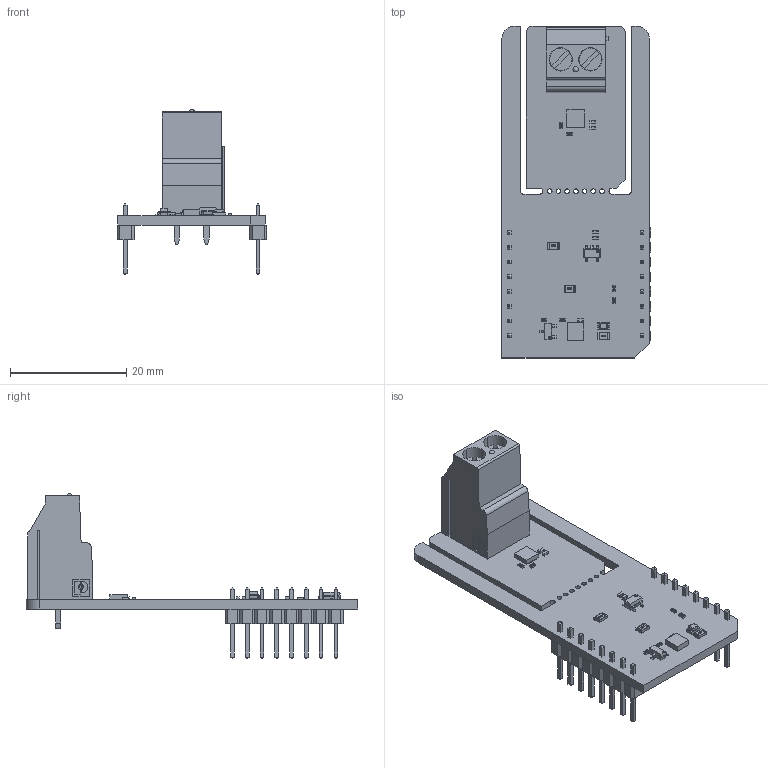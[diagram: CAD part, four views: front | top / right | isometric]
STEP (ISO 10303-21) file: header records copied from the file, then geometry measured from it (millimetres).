
FILE_DESCRIPTION(('Open CASCADE Model'),'2;1');
FILE_NAME('Open CASCADE Shape Model','2025-12-10T14:42:31',('Author'),( 'Open CASCADE'),'Open CASCADE STEP processor 6.8','Open CASCADE 6.8' ,'Unknown');
FILE_SCHEMA(('AUTOMOTIVE_DESIGN { 1 0 10303 214 1 1 1 1 }'));
Length unit declared in the file: millimetre
Products named in the file (42): PCB; Board; R1; User_Library-R_0805; LD1; led_0805_green; R2; User_Library-R_0402; C1; User_Library-SMD_CAPACITOR0402; R4; Q1; SOT23-3; U1; 995393072; Extruded; U4; MCS1826GQTE-05-P; Body; Pins; U3; User_Library-SOT23-5-2; TB1; 1711725; mkds_3-2-5.08; R8; R7; R6; R5; JP2; C5; C4; C3; C2; MBD1; Header_1x8; Free-Models; 1240637040; User_Library-PinHeaderX5-1_PinHeaderX5_Body_1; User_Library-PinHeaderX5-1_PinHeaderX5_Pins_1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
Assembly tree (54 placements, depth 7):
  PCB
    Board
    R1
      User_Library-R_0805
    LD1
      led_0805_green
    R2
      User_Library-R_0402
    C1
      User_Library-SMD_CAPACITOR0402
    R4
      User_Library-R_0402
    Q1
      SOT23-3
    U1
      995393072
        Extruded
    U4
      MCS1826GQTE-05-P
        Body
        Pins
    U3
      User_Library-SOT23-5-2
    TB1
      1711725
        mkds_3-2-5.08
    R8
      User_Library-R_0402
    R7
      User_Library-R_0402
    R6
      User_Library-R_0402
    R5
      User_Library-R_0402
    JP2
      User_Library-R_0805
    C5
      User_Library-SMD_CAPACITOR0402
    C4
      User_Library-SMD_CAPACITOR0402
    C3
      User_Library-SMD_CAPACITOR0402
    C2
      User_Library-SMD_CAPACITOR0402
    MBD1
      Header_1x8  x2
        PCB
          Free-Models
            1240637040  x2
              User_Library-PinHeaderX5-1_PinHeaderX5_Body_1
              User_Library-PinHeaderX5-1_PinHeaderX5_Pins_1
    JP1
      User_Library-R_0805
Bounding box: 25.78 x 57.15 x 28.41 mm (x, y, z)
Volume: 4272.3 mm3; surface area: 5932.7 mm2
Topology: 66 solids, 66 shells, 1926 faces, 4798 edges, 3055 vertices
Faces by surface type: plane 1419, bspline 282, cylinder 176, sphere 49
Full cylindrical faces by diameter (mm): 0.8 x7
Entity records: 31640 total; most frequent: CARTESIAN_POINT 8423, ORIENTED_EDGE 3880, DIRECTION 3583, EDGE_CURVE 1940, LINE 1561, VECTOR 1561, VERTEX_POINT 1251, AXIS2_PLACEMENT_3D 1011
